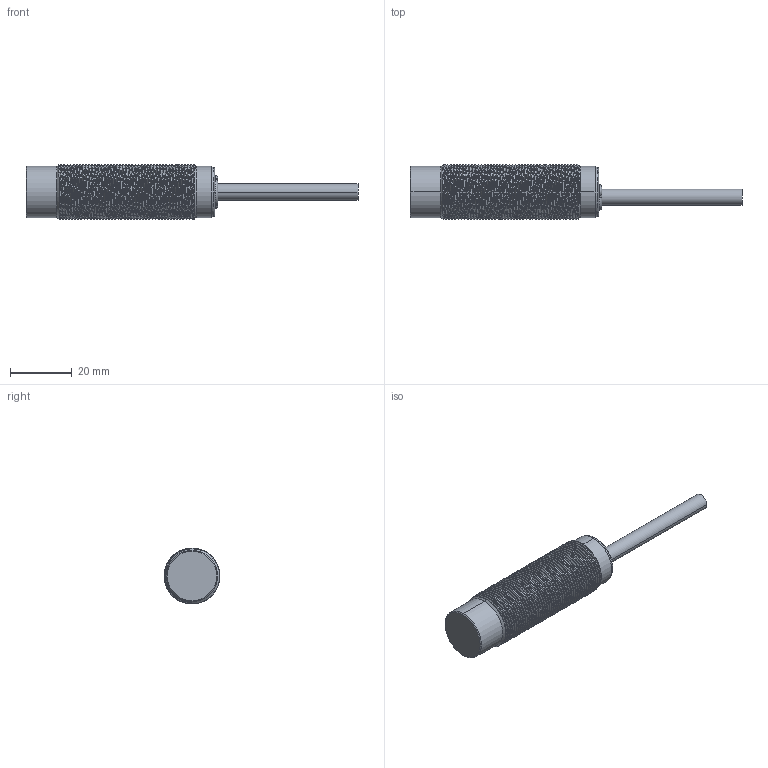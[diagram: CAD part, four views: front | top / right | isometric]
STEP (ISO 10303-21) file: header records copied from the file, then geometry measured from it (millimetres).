
FILE_DESCRIPTION((''),'2;1');
FILE_NAME('M18-NON-FLUSH-CABLE_ASM','2020-10-28T',('Daisy.Wang'),(''),'CREO PARAMETRIC BY PTC INC, 2015480','CREO PARAMETRIC BY PTC INC, 2015480','');
FILE_SCHEMA(('CONFIG_CONTROL_DESIGN'));
Length unit declared in the file: millimetre
Products named in the file (11): MECK124-M18-NO-FLUSH-HOUSING; M18D15; M18COPPER-FOIL-COIL; 58-215; M18-COIL-SUPPORT; M18-LONG_NO-FLUSH_CABLE_PCB-NEW; ORING-M18BACKPART; NEW_1MP7065-0_07; 57-256CABLE; O-RING-CABLE52MM; M18-NON-FLUSH-CABLE_ASM
Assembly tree (10 placements, depth 2):
  M18-NON-FLUSH-CABLE_ASM
    MECK124-M18-NO-FLUSH-HOUSING
    M18D15
    M18COPPER-FOIL-COIL
    58-215
    M18-COIL-SUPPORT
    M18-LONG_NO-FLUSH_CABLE_PCB-NEW
    ORING-M18BACKPART
    NEW_1MP7065-0_07
    57-256CABLE
    O-RING-CABLE52MM
Bounding box: 107.4 x 18 x 18 mm (x, y, z)
Volume: 6461.5 mm3; surface area: 13964.8 mm2
Topology: 10 solids, 10 shells, 401 faces, 1033 edges, 667 vertices
Faces by surface type: cylinder 185, plane 81, torus 56, bspline 46, cone 33
Entity records: 30424 total; most frequent: CARTESIAN_POINT 20925, ORIENTED_EDGE 2066, DIRECTION 1776, EDGE_CURVE 1033, AXIS2_PLACEMENT_3D 722, VERTEX_POINT 667, EDGE_LOOP 430, FACE_OUTER_BOUND 401
